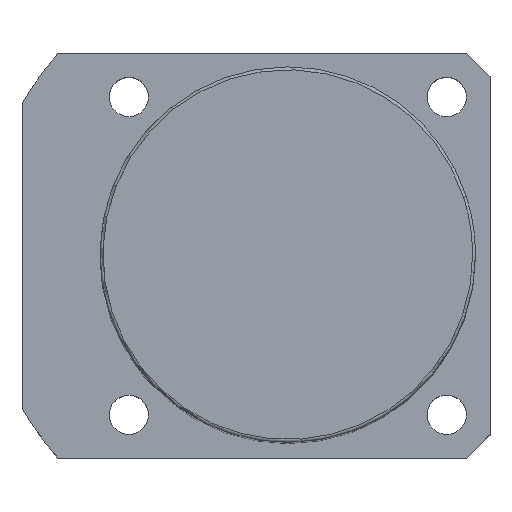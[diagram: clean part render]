
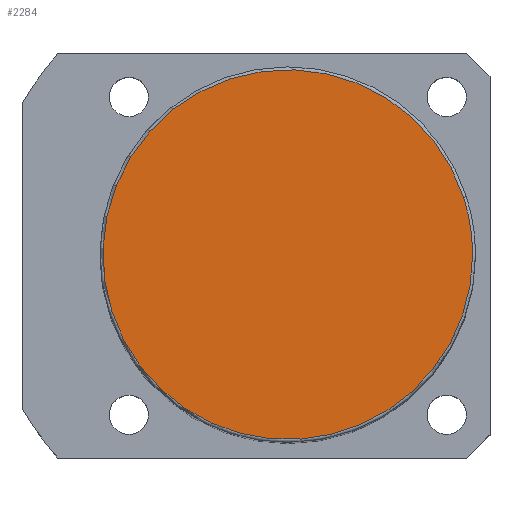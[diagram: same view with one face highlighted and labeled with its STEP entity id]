
A CAD part, top view. The second image highlights one B-rep face of the part: STEP entity #2284.
In plain terms, the highlighted planar face has unit normal (0, 0, 1).
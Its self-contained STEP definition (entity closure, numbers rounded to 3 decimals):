
#2217=CARTESIAN_POINT('',(30.434,9.889,136.0));
#2218=VERTEX_POINT('',#2217);
#2236=CARTESIAN_POINT('',(-30.434,-9.889,136.0));
#2237=VERTEX_POINT('',#2236);
#2245=CARTESIAN_POINT('',(0.0,0.0,136.0));
#2246=DIRECTION('',(0.0,0.0,1.0));
#2247=DIRECTION('',(1.0,0.0,0.0));
#2248=AXIS2_PLACEMENT_3D('',#2245,#2246,#2247);
#2249=CIRCLE('',#2248,32.0);
#2250=EDGE_CURVE('no 2139',#2218,#2237,#2249,.T.);
#2260=CARTESIAN_POINT('',(32.0,0.0,136.0));
#2261=VERTEX_POINT('',#2260);
#2262=CARTESIAN_POINT('',(0.0,0.0,136.0));
#2263=DIRECTION('',(0.0,0.0,1.0));
#2264=DIRECTION('',(1.0,0.0,0.0));
#2265=AXIS2_PLACEMENT_3D('',#2262,#2263,#2264);
#2266=CIRCLE('',#2265,32.0);
#2267=EDGE_CURVE('no 2148',#2261,#2218,#2266,.T.);
#2268=ORIENTED_EDGE('',*,*,#2267,.T.);
#2269=ORIENTED_EDGE('',*,*,#2250,.T.);
#2270=CARTESIAN_POINT('',(0.0,0.0,136.0));
#2271=DIRECTION('',(0.0,0.0,1.0));
#2272=DIRECTION('',(1.0,0.0,0.0));
#2273=AXIS2_PLACEMENT_3D('',#2270,#2271,#2272);
#2274=CIRCLE('',#2273,32.0);
#2275=EDGE_CURVE('no 2154',#2237,#2261,#2274,.T.);
#2276=ORIENTED_EDGE('',*,*,#2275,.T.);
#2277=EDGE_LOOP('',(#2268,#2269,#2276));
#2278=FACE_OUTER_BOUND('',#2277,.T.);
#2279=CARTESIAN_POINT('',(0.0,0.0,136.0));
#2280=DIRECTION('',(0.0,0.0,1.0));
#2281=DIRECTION('',(1.0,0.0,0.0));
#2282=AXIS2_PLACEMENT_3D('',#2279,#2280,#2281);
#2283=PLANE('',#2282);
#2284=ADVANCED_FACE('no 2141',(#2278),#2283,.T.);
